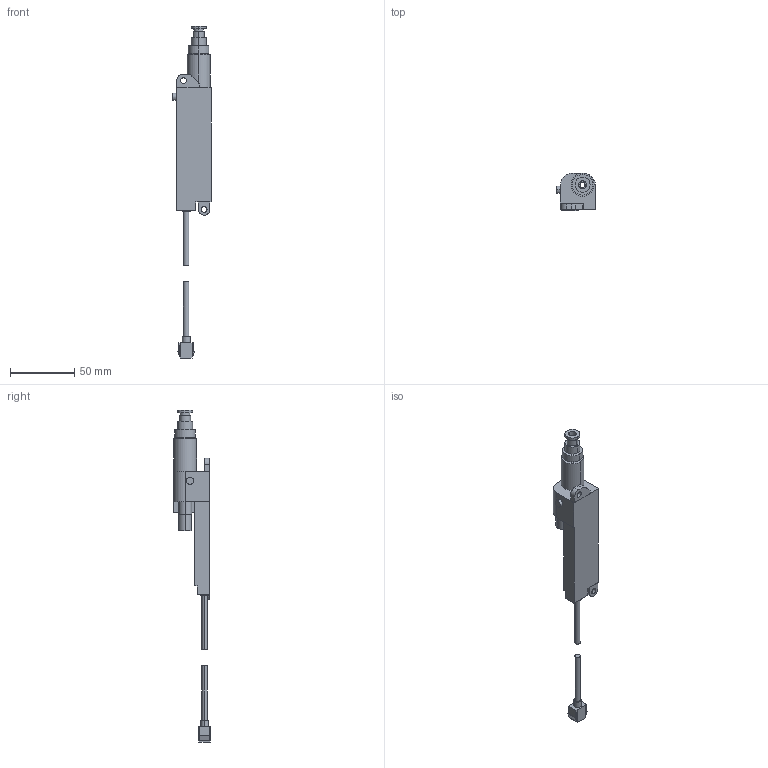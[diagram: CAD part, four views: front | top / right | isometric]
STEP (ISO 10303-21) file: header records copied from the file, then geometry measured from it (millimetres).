
FILE_DESCRIPTION (( 'STEP AP203' ), '1' );
FILE_NAME ('ER-VS01(+ER-VAJT-64).STEP', '2005-09-06T02:39:47', ( '' ), ( '' ), 'SwSTEP 2.0', 'SolidWorks 2004073', '' );
FILE_SCHEMA (( 'CONFIG_CONTROL_DESIGN' ));
Length unit declared in the file: millimetre
Products named in the file (3): ER-VAJT-64_蹬怮椔; ER-VS01_蹬怮椔; ER-VS01(+ER-VAJT-64)
Assembly tree (2 placements, depth 2):
  ER-VS01(+ER-VAJT-64)
    ER-VS01_蹬怮椔
    ER-VAJT-64_蹬怮椔
Bounding box: 29.8 x 28.6 x 257.5 mm (x, y, z)
Volume: 51152.9 mm3; surface area: 18723.8 mm2
Topology: 3 solids, 3 shells, 169 faces, 409 edges, 271 vertices
Faces by surface type: plane 96, cylinder 73
Entity records: 5288 total; most frequent: DIRECTION 903, CARTESIAN_POINT 854, ORIENTED_EDGE 818, EDGE_CURVE 409, AXIS2_PLACEMENT_3D 320, VERTEX_POINT 271, VECTOR 263, LINE 263
